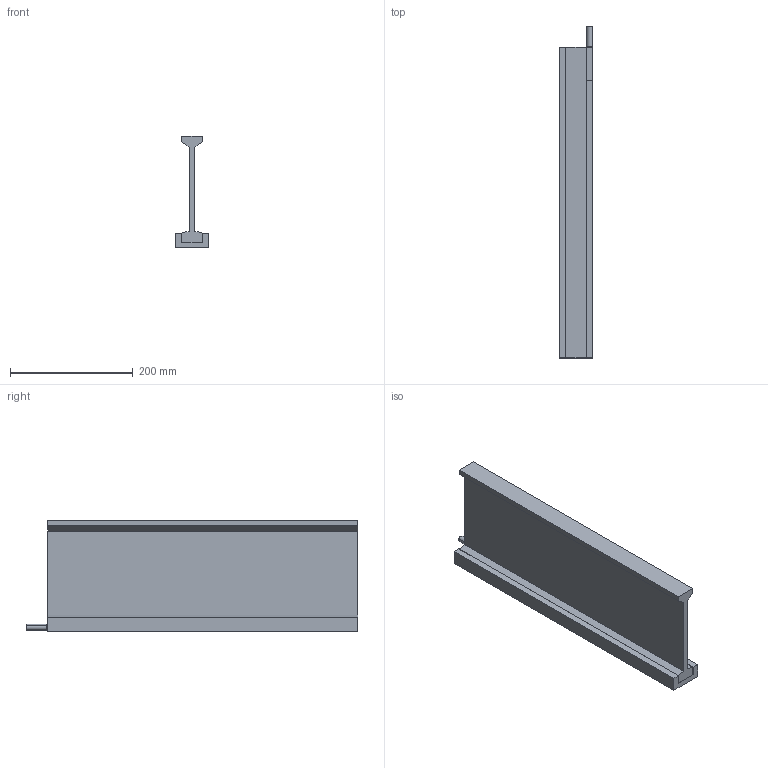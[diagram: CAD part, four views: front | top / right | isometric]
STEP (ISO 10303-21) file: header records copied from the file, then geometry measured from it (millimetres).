
FILE_DESCRIPTION (( 'STEP AP214' ), '1' );
FILE_NAME ('DX140F-C8-NH.STEP', '2021-07-16T04:15:13', ( '' ), ( '' ), 'SwSTEP 2.0', 'SolidWorks 2020', '' );
FILE_SCHEMA (( 'AUTOMOTIVE_DESIGN' ));
Length unit declared in the file: millimetre
Products named in the file (6): TIM-PC 8850FT-LV (DX140F)_C8; DX140F-C8-NH; HEX SHCS M3x0.5x12(S.S)_B18.3.1M - 3 x 0.5 x 12 Hex SHCS -- 12CHX; DX140FCX01_C8 (CUSTOMER); DX140FNH01; CBL_PWR_D10
Assembly tree (6 placements, depth 2):
  DX140F-C8-NH
    TIM-PC 8850FT-LV (DX140F)_C8
    DX140FCX01_C8 (CUSTOMER)
    DX140FNH01
    HEX SHCS M3x0.5x12(S.S)_B18.3.1M - 3 x 0.5 x 12 Hex SHCS -- 12CHX  x2
    CBL_PWR_D10
Bounding box: 55 x 540 x 180.6 mm (x, y, z)
Volume: 1568049 mm3; surface area: 334478.5 mm2
Topology: 6 solids, 6 shells, 218 faces, 517 edges, 290 vertices
Faces by surface type: plane 76, cylinder 74, cone 62, torus 6
Entity records: 5523 total; most frequent: DIRECTION 963, CARTESIAN_POINT 864, ORIENTED_EDGE 814, EDGE_CURVE 407, AXIS2_PLACEMENT_3D 356, VERTEX_POINT 257, VECTOR 251, LINE 251
